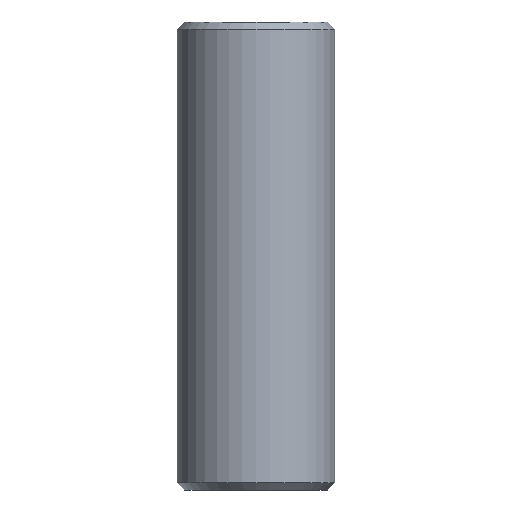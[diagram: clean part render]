
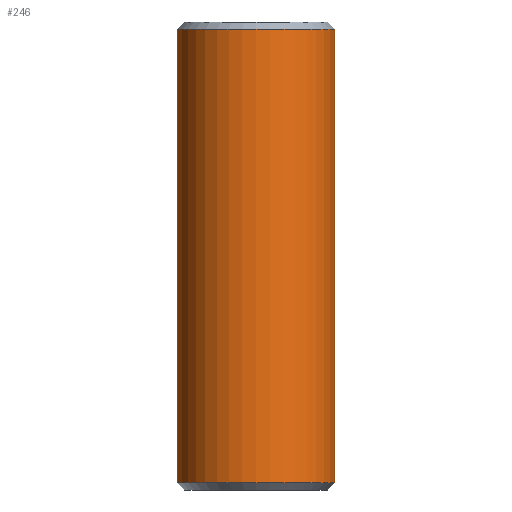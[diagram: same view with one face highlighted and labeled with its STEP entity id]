
A CAD part, front view. The second image highlights one B-rep face of the part: STEP entity #246.
In plain terms, the highlighted cylindrical face has radius 15 mm (diameter 30 mm), a full revolution.
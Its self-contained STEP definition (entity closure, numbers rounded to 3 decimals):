
#74 = CONICAL_SURFACE('',#75,15.,0.785);
#75 = AXIS2_PLACEMENT_3D('',#76,#77,#78);
#76 = CARTESIAN_POINT('',(0.,0.,1.4));
#77 = DIRECTION('',(0.,-0.,1.));
#78 = DIRECTION('',(1.,0.,0.));
#143 = VERTEX_POINT('',#144);
#144 = CARTESIAN_POINT('',(15.,0.,1.4));
#165 = EDGE_CURVE('',#143,#143,#166,.T.);
#166 = SURFACE_CURVE('',#167,(#172,#179),.PCURVE_S1.);
#167 = CIRCLE('',#168,15.);
#168 = AXIS2_PLACEMENT_3D('',#169,#170,#171);
#169 = CARTESIAN_POINT('',(0.,0.,1.4));
#170 = DIRECTION('',(0.,-0.,1.));
#171 = DIRECTION('',(1.,0.,0.));
#172 = PCURVE('',#74,#173);
#173 = DEFINITIONAL_REPRESENTATION('',(#174),#178);
#174 = LINE('',#175,#176);
#175 = CARTESIAN_POINT('',(0.,0.));
#176 = VECTOR('',#177,1.);
#177 = DIRECTION('',(1.,0.));
#178 = ( GEOMETRIC_REPRESENTATION_CONTEXT(2) 
PARAMETRIC_REPRESENTATION_CONTEXT() REPRESENTATION_CONTEXT('2D SPACE',''
  ) );
#179 = PCURVE('',#180,#185);
#180 = CYLINDRICAL_SURFACE('',#181,15.);
#181 = AXIS2_PLACEMENT_3D('',#182,#183,#184);
#182 = CARTESIAN_POINT('',(0.,0.,0.));
#183 = DIRECTION('',(0.,0.,1.));
#184 = DIRECTION('',(1.,0.,-0.));
#185 = DEFINITIONAL_REPRESENTATION('',(#186),#190);
#186 = LINE('',#187,#188);
#187 = CARTESIAN_POINT('',(0.,1.4));
#188 = VECTOR('',#189,1.);
#189 = DIRECTION('',(1.,0.));
#190 = ( GEOMETRIC_REPRESENTATION_CONTEXT(2) 
PARAMETRIC_REPRESENTATION_CONTEXT() REPRESENTATION_CONTEXT('2D SPACE',''
  ) );
#246 = ADVANCED_FACE('',(#247),#180,.T.);
#247 = FACE_BOUND('',#248,.T.);
#248 = EDGE_LOOP('',(#249,#272,#273,#274));
#249 = ORIENTED_EDGE('',*,*,#250,.F.);
#250 = EDGE_CURVE('',#143,#251,#253,.T.);
#251 = VERTEX_POINT('',#252);
#252 = CARTESIAN_POINT('',(15.,0.,87.7));
#253 = SEAM_CURVE('',#254,(#258,#265),.PCURVE_S1.);
#254 = LINE('',#255,#256);
#255 = CARTESIAN_POINT('',(15.,0.,0.));
#256 = VECTOR('',#257,1.);
#257 = DIRECTION('',(0.,0.,1.));
#258 = PCURVE('',#180,#259);
#259 = DEFINITIONAL_REPRESENTATION('',(#260),#264);
#260 = LINE('',#261,#262);
#261 = CARTESIAN_POINT('',(0.,0.));
#262 = VECTOR('',#263,1.);
#263 = DIRECTION('',(0.,1.));
#264 = ( GEOMETRIC_REPRESENTATION_CONTEXT(2) 
PARAMETRIC_REPRESENTATION_CONTEXT() REPRESENTATION_CONTEXT('2D SPACE',''
  ) );
#265 = PCURVE('',#180,#266);
#266 = DEFINITIONAL_REPRESENTATION('',(#267),#271);
#267 = LINE('',#268,#269);
#268 = CARTESIAN_POINT('',(6.283,0.));
#269 = VECTOR('',#270,1.);
#270 = DIRECTION('',(0.,1.));
#271 = ( GEOMETRIC_REPRESENTATION_CONTEXT(2) 
PARAMETRIC_REPRESENTATION_CONTEXT() REPRESENTATION_CONTEXT('2D SPACE',''
  ) );
#272 = ORIENTED_EDGE('',*,*,#165,.T.);
#273 = ORIENTED_EDGE('',*,*,#250,.T.);
#274 = ORIENTED_EDGE('',*,*,#275,.F.);
#275 = EDGE_CURVE('',#251,#251,#276,.T.);
#276 = SURFACE_CURVE('',#277,(#282,#289),.PCURVE_S1.);
#277 = CIRCLE('',#278,15.);
#278 = AXIS2_PLACEMENT_3D('',#279,#280,#281);
#279 = CARTESIAN_POINT('',(0.,0.,87.7));
#280 = DIRECTION('',(0.,0.,1.));
#281 = DIRECTION('',(1.,0.,-0.));
#282 = PCURVE('',#180,#283);
#283 = DEFINITIONAL_REPRESENTATION('',(#284),#288);
#284 = LINE('',#285,#286);
#285 = CARTESIAN_POINT('',(0.,87.7));
#286 = VECTOR('',#287,1.);
#287 = DIRECTION('',(1.,0.));
#288 = ( GEOMETRIC_REPRESENTATION_CONTEXT(2) 
PARAMETRIC_REPRESENTATION_CONTEXT() REPRESENTATION_CONTEXT('2D SPACE',''
  ) );
#289 = PCURVE('',#290,#295);
#290 = CONICAL_SURFACE('',#291,15.,0.785);
#291 = AXIS2_PLACEMENT_3D('',#292,#293,#294);
#292 = CARTESIAN_POINT('',(0.,0.,87.7));
#293 = DIRECTION('',(-0.,-0.,-1.));
#294 = DIRECTION('',(1.,0.,0.));
#295 = DEFINITIONAL_REPRESENTATION('',(#296),#300);
#296 = LINE('',#297,#298);
#297 = CARTESIAN_POINT('',(-0.,-0.));
#298 = VECTOR('',#299,1.);
#299 = DIRECTION('',(-1.,-0.));
#300 = ( GEOMETRIC_REPRESENTATION_CONTEXT(2) 
PARAMETRIC_REPRESENTATION_CONTEXT() REPRESENTATION_CONTEXT('2D SPACE',''
  ) );
